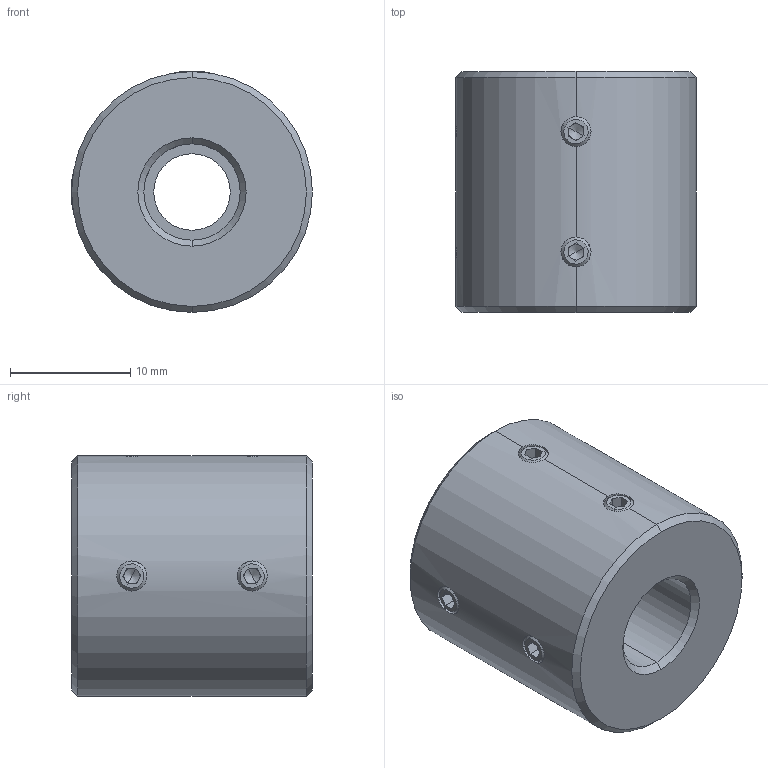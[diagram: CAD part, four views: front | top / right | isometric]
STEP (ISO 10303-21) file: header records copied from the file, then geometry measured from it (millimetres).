
FILE_DESCRIPTION (( 'STEP AP214' ), '1' );
FILE_NAME ('LL-D-D20L20-6.35-8.STEP', '2022-07-23T06:34:13', ( '' ), ( '' ), 'SwSTEP 2.0', 'SolidWorks 2022', '' );
FILE_SCHEMA (( 'AUTOMOTIVE_DESIGN' ));
Length unit declared in the file: millimetre
Products named in the file (1): LL-D-D20L20-6.35-8
Bounding box: 20 x 20 x 20 mm (x, y, z)
Volume: 5382.4 mm3; surface area: 2354 mm2
Topology: 1 solids, 1 shells, 113 faces, 286 edges, 176 vertices
Faces by surface type: plane 59, cone 32, cylinder 22
Entity records: 3634 total; most frequent: CARTESIAN_POINT 884, DIRECTION 582, ORIENTED_EDGE 556, EDGE_CURVE 278, AXIS2_PLACEMENT_3D 214, VERTEX_POINT 176, LINE 154, VECTOR 154
